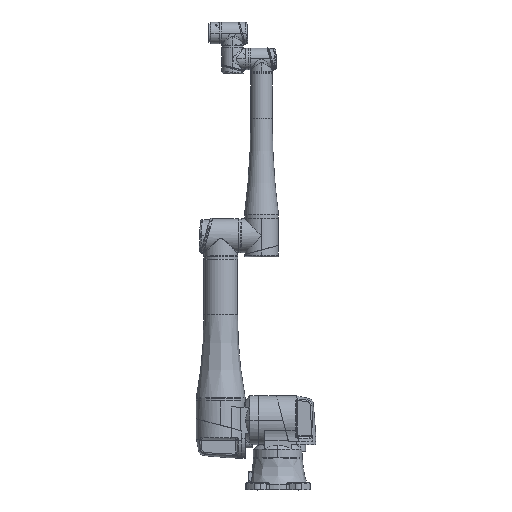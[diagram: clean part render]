
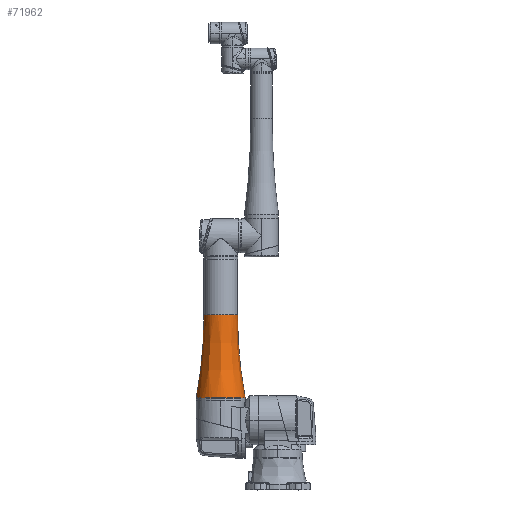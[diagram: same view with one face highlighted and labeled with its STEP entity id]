
A CAD part, top view. The second image highlights one B-rep face of the part: STEP entity #71962.
In plain terms, the highlighted free-form (B-spline) face has degree [3, 3] with [4, 4] control points.
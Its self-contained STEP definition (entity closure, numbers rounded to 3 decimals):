
#40 = CIRCLE ( 'NONE', #134448, 2477.889 ) ;
#102 = EDGE_CURVE ( 'NONE', #72840, #72335, #40, .T. ) ;
#3904 = DIRECTION ( 'NONE',  ( 0., 0., -1. ) ) ;
#10886 = CARTESIAN_POINT ( 'NONE',  ( 221.746, 5.686, 182. ) ) ;
#11067 = CARTESIAN_POINT ( 'NONE',  ( -228.953, 229.019, 0. ) ) ;
#12198 = EDGE_LOOP ( 'NONE', ( #135517, #79366, #80938, #26851 ) ) ;
#17533 = CARTESIAN_POINT ( 'NONE',  ( 221.746, 2665.575, 0. ) ) ;
#21115 = CARTESIAN_POINT ( 'NONE',  ( 70.461, 187.686, 182. ) ) ;
#26851 = ORIENTED_EDGE ( 'NONE', *, *, #102, .F. ) ;
#27397 = EDGE_CURVE ( 'NONE', #30457, #72840, #68296, .T. ) ;
#29401 = CARTESIAN_POINT ( 'NONE',  ( -228.953, 229.019, 264.666 ) ) ;
#30095 = CARTESIAN_POINT ( 'NONE',  ( -80.192, 201.502, 209.632 ) ) ;
#30457 = VERTEX_POINT ( 'NONE', #85266 ) ;
#31462 = CARTESIAN_POINT ( 'NONE',  ( -80.192, -8.13, 0. ) ) ;
#37805 =( BOUNDED_SURFACE ( )  B_SPLINE_SURFACE ( 3, 3, ( 
 ( #126051, #29401, #115003, #124678 ),
 ( #71569, #30095, #113653, #31462 ),
 ( #73634, #21115, #115687, #52901 ),
 ( #63272, #105442, #10886, #61214 ) ),
 .UNSPECIFIED., .F., .F., .T. ) 
 B_SPLINE_SURFACE_WITH_KNOTS ( ( 4, 4 ),
 ( 4, 4 ),
 ( 0., 1. ),
 ( 0., 1. ),
 .UNSPECIFIED. ) 
 GEOMETRIC_REPRESENTATION_ITEM ( )  RATIONAL_B_SPLINE_SURFACE ( (
 ( 1., 0.333, 0.333, 1.),
 ( 0.997, 0.332, 0.332, 0.997),
 ( 0.997, 0.332, 0.332, 0.997),
 ( 1., 0.333, 0.333, 1.) ) ) 
 REPRESENTATION_ITEM ( '' )  SURFACE ( )  );
#38519 = CARTESIAN_POINT ( 'NONE',  ( 221.746, 5.686, 0. ) ) ;
#38899 = CARTESIAN_POINT ( 'NONE',  ( -228.953, 96.686, 0. ) ) ;
#40927 = DIRECTION ( 'NONE',  ( 0., 0., 1. ) ) ;
#41495 = CARTESIAN_POINT ( 'NONE',  ( 221.746, 187.686, 0. ) ) ;
#45715 = CARTESIAN_POINT ( 'NONE',  ( 221.746, 96.686, 0. ) ) ;
#45889 = CARTESIAN_POINT ( 'NONE',  ( 221.746, -2472.203, 0. ) ) ;
#52901 = CARTESIAN_POINT ( 'NONE',  ( 70.461, 5.686, 0. ) ) ;
#60427 = CIRCLE ( 'NONE', #89070, 91. ) ;
#61214 = CARTESIAN_POINT ( 'NONE',  ( 221.746, 5.686, 0. ) ) ;
#63272 = CARTESIAN_POINT ( 'NONE',  ( 221.746, 187.686, 0. ) ) ;
#68296 = CIRCLE ( 'NONE', #81527, 132.333 ) ;
#71569 = CARTESIAN_POINT ( 'NONE',  ( -80.192, 201.502, 0. ) ) ;
#71962 = ADVANCED_FACE ( 'NONE', ( #135744 ), #37805, .F. ) ;
#72335 = VERTEX_POINT ( 'NONE', #41495 ) ;
#72840 = VERTEX_POINT ( 'NONE', #11067 ) ;
#73634 = CARTESIAN_POINT ( 'NONE',  ( 70.461, 187.686, 0. ) ) ;
#78168 = DIRECTION ( 'NONE',  ( 0., 1., 0. ) ) ;
#79366 = ORIENTED_EDGE ( 'NONE', *, *, #114417, .T. ) ;
#80938 = ORIENTED_EDGE ( 'NONE', *, *, #125979, .F. ) ;
#81527 = AXIS2_PLACEMENT_3D ( 'NONE', #38899, #90151, #131490 ) ;
#85266 = CARTESIAN_POINT ( 'NONE',  ( -228.953, -35.647, 0. ) ) ;
#87903 = DIRECTION ( 'NONE',  ( 1., 0., 0. ) ) ;
#88082 = DIRECTION ( 'NONE',  ( 0., -1., 0. ) ) ;
#89070 = AXIS2_PLACEMENT_3D ( 'NONE', #45715, #87903, #78168 ) ;
#90151 = DIRECTION ( 'NONE',  ( -1., 0., 0. ) ) ;
#94240 = DIRECTION ( 'NONE',  ( 0., 1., 0. ) ) ;
#105442 = CARTESIAN_POINT ( 'NONE',  ( 221.746, 187.686, 182. ) ) ;
#113653 = CARTESIAN_POINT ( 'NONE',  ( -80.192, -8.13, 209.632 ) ) ;
#114417 = EDGE_CURVE ( 'NONE', #30457, #119854, #121965, .T. ) ;
#115003 = CARTESIAN_POINT ( 'NONE',  ( -228.953, -35.647, 264.666 ) ) ;
#115687 = CARTESIAN_POINT ( 'NONE',  ( 70.461, 5.686, 182. ) ) ;
#119854 = VERTEX_POINT ( 'NONE', #38519 ) ;
#121965 = CIRCLE ( 'NONE', #124233, 2477.889 ) ;
#124233 = AXIS2_PLACEMENT_3D ( 'NONE', #45889, #3904, #88082 ) ;
#124678 = CARTESIAN_POINT ( 'NONE',  ( -228.953, -35.647, 0. ) ) ;
#125979 = EDGE_CURVE ( 'NONE', #72335, #119854, #60427, .T. ) ;
#126051 = CARTESIAN_POINT ( 'NONE',  ( -228.953, 229.019, 0. ) ) ;
#131490 = DIRECTION ( 'NONE',  ( 0., 1., 0. ) ) ;
#134448 = AXIS2_PLACEMENT_3D ( 'NONE', #17533, #40927, #94240 ) ;
#135517 = ORIENTED_EDGE ( 'NONE', *, *, #27397, .F. ) ;
#135744 = FACE_OUTER_BOUND ( 'NONE', #12198, .T. ) ;
